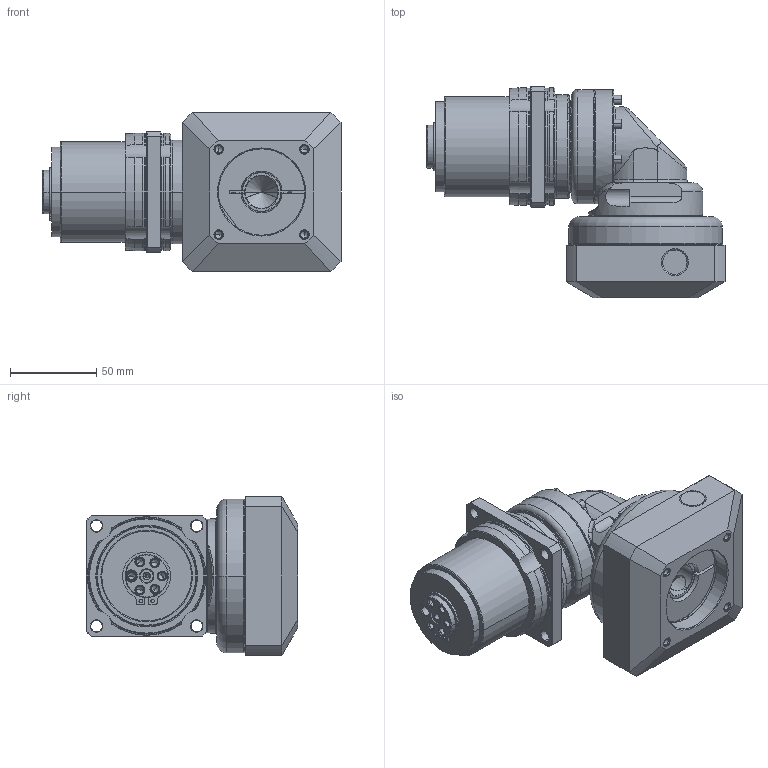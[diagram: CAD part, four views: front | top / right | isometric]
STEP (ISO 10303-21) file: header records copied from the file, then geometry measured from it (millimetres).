
FILE_DESCRIPTION((''),'2;1');
FILE_NAME('PLR070_2ST_19-P0411400101_ASM','2016-06-22T',('d00435'),(''),'PRO/ENGINEER BY PARAMETRIC TECHNOLOGY CORPORATION, 2008410','PRO/ENGINEER BY PARAMETRIC TECHNOLOGY CORPORATION, 2008410','');
FILE_SCHEMA(('CONFIG_CONTROL_DESIGN'));
Length unit declared in the file: millimetre
Products named in the file (12): P0272200001; P0366200001; 22802000015; P1356200001; P0274200001; P1349200001; P1017210001; P1350200301; P0503400008; P0713200301; P0411400101; PLR070_2ST_19-P0411400101_ASM
Assembly tree (11 placements, depth 2):
  PLR070_2ST_19-P0411400101_ASM
    P0272200001
    P0366200001
    22802000015
    P1356200001
    P0274200001
    P1349200001
    P1017210001
    P1350200301
    P0503400008
    P0713200301
    P0411400101
Bounding box: 172.5 x 122.5 x 92 mm (x, y, z)
Volume: 654792.5 mm3; surface area: 159186.3 mm2
Topology: 12 solids, 33 shells, 734 faces, 1740 edges, 1049 vertices
Faces by surface type: cylinder 245, cone 228, plane 137, torus 92, bspline 32
Entity records: 24507 total; most frequent: CARTESIAN_POINT 7521, DIRECTION 3734, ORIENTED_EDGE 3284, EDGE_CURVE 1684, AXIS2_PLACEMENT_3D 1577, VERTEX_POINT 1049, CIRCLE 842, EDGE_LOOP 835
